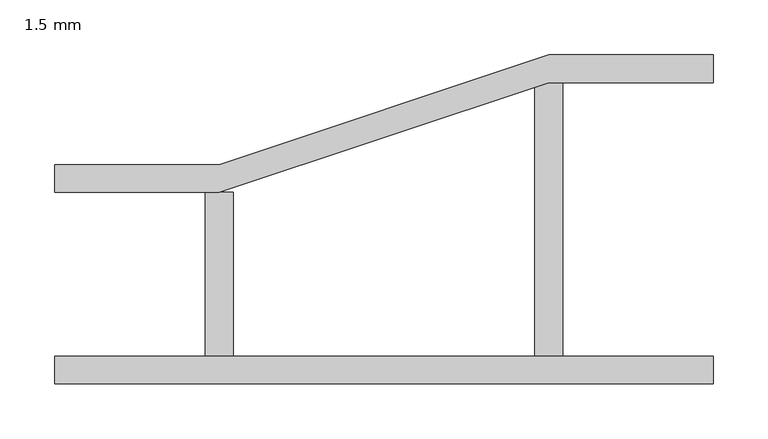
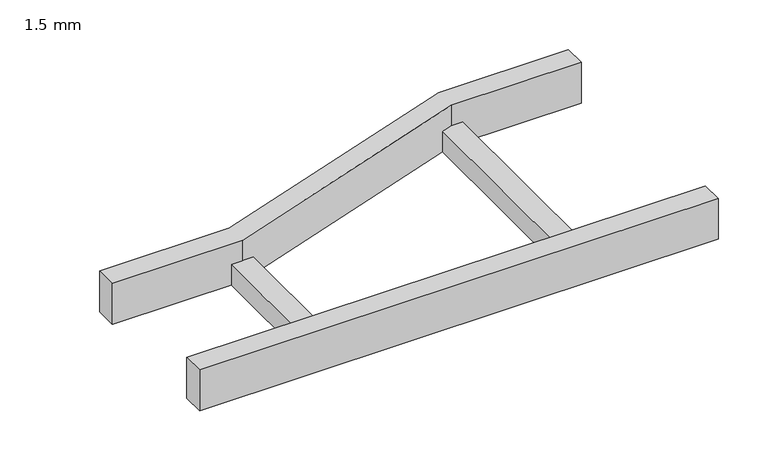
"""IFC4 building model written with IfcOpenShell, lengths in millimetres: cable carrier fitting geometry, BAKS_Redukcja_drabiny : 1.5 mm."""

from ifc_helpers import new_model, si_unit, frame, origin, place, context, project, spatial, polyline, outline, extrude, source, transform, mapped, element, save


def cable_carrier_fitting_1_5_mm_72e9b842(model_context):
    return source(origin(), model_context, "Body", "SweptSolid", [
        extrude(outline(polyline([(0.0, -100.0), (0.0, -74.6), (600.0, -74.6), (600.0, -100.0), (0.0, -100.0)])), frame((0.0, 0.0, -25.0), z_axis=(0.0, 0.0, 1.0), x_axis=(1.0, 0.0, 0.0)), (0.0, 0.0, 1.0), 50.0),
        extrude(outline(polyline([(0.0, 74.6), (0.0, 100.0), (150.0, 100.0), (450.0, 200.0), (600.0, 200.0), (600.0, 174.6), (450.0, 174.6), (150.0, 74.6), (0.0, 74.6)])), frame((0.0, 0.0, -25.0), z_axis=(0.0, 0.0, 1.0), x_axis=(1.0, 0.0, 0.0)), (0.0, 0.0, 1.0), 50.0),
        extrude(outline(polyline([(437.3, 174.6), (462.7, 174.6), (462.7, -74.6), (437.3, -74.6), (437.3, 174.6)])), frame((0.0, 0.0, -25.0), z_axis=(0.0, 0.0, 1.0), x_axis=(1.0, 0.0, 0.0)), (0.0, 0.0, 1.0), 25.4),
        extrude(outline(polyline([(137.3, 74.6), (162.7, 74.6), (162.7, -74.6), (137.3, -74.6), (137.3, 74.6)])), frame((0.0, 0.0, -25.0), z_axis=(0.0, 0.0, 1.0), x_axis=(1.0, 0.0, 0.0)), (0.0, 0.0, 1.0), 25.4),
    ])


if __name__ == "__main__":
    model = new_model("IFC4")
    model_context = context("Model", 3, world=origin())
    ifc_project = project(units=[si_unit("LENGTHUNIT", "METRE", prefix="MILLI")], contexts=[model_context])
    site = spatial("IfcSite", under=ifc_project)
    building = spatial("IfcBuilding", under=site)
    placement = place(None, origin())
    cable_carrier_fitting_1_5_mm_shape = cable_carrier_fitting_1_5_mm_72e9b842(model_context)
    element("IfcCableCarrierFitting", 1, ObjectType="BAKS_Redukcja_drabiny : 1.5 mm", at=placement, inside=building, context=model_context, shape_type="MappedRepresentation", body=[
        mapped(cable_carrier_fitting_1_5_mm_shape, transform((0.0, 0.0, 0.0), x_axis=(1.0, 0.0, 0.0), y_axis=(0.0, 1.0, 0.0), z_axis=(0.0, 0.0, 1.0))),
    ])
    save(model, "model.ifc")
